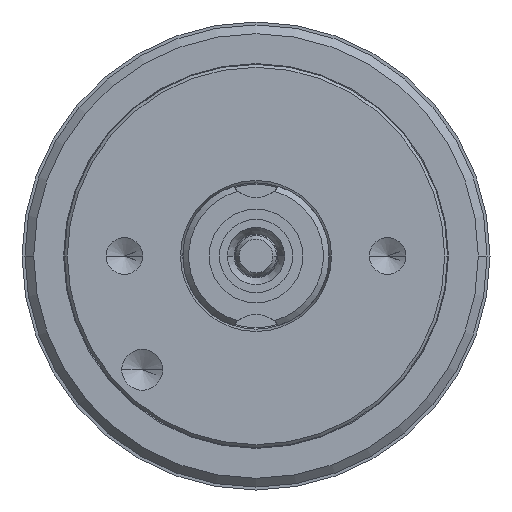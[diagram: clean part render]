
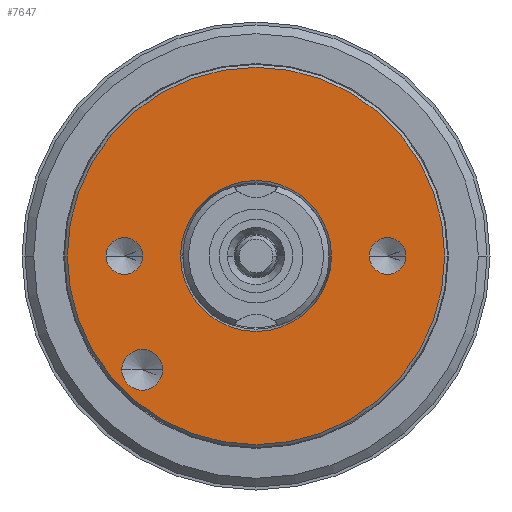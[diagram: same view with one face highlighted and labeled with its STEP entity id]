
A CAD part, left-side view. The second image highlights one B-rep face of the part: STEP entity #7647.
In plain terms, the highlighted planar face has unit normal (-1, 0, 0).
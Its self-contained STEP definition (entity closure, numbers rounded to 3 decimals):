
#2438=CARTESIAN_POINT('',(0.,0.,0.));
#2439=DIRECTION('',(-1.,0.,0.));
#2440=DIRECTION('',(0.,-1.,0.));
#2441=AXIS2_PLACEMENT_3D('',#2438,#2439,#2440);
#2446=CARTESIAN_POINT('',(0.,0.,0.));
#2447=DIRECTION('',(-1.,0.,0.));
#2448=DIRECTION('',(0.,1.,0.));
#2449=AXIS2_PLACEMENT_3D('',#2446,#2447,#2448);
#2454=CARTESIAN_POINT('',(0.,0.,0.));
#2455=DIRECTION('',(-1.,0.,0.));
#2456=DIRECTION('',(0.,-1.,0.));
#2457=AXIS2_PLACEMENT_3D('',#2454,#2455,#2456);
#2462=CARTESIAN_POINT('',(0.,0.,0.));
#2463=DIRECTION('',(-1.,0.,0.));
#2464=DIRECTION('',(0.,1.,0.));
#2465=AXIS2_PLACEMENT_3D('',#2462,#2463,#2464);
#2470=CARTESIAN_POINT('',(0.,3.889,-3.889));
#2471=DIRECTION('',(-1.,0.,0.));
#2472=DIRECTION('',(0.,1.,0.));
#2473=AXIS2_PLACEMENT_3D('',#2470,#2471,#2472);
#2478=CARTESIAN_POINT('',(0.,3.889,-3.889));
#2479=DIRECTION('',(-1.,0.,0.));
#2480=DIRECTION('',(0.,-1.,0.));
#2481=AXIS2_PLACEMENT_3D('',#2478,#2479,#2480);
#2486=CARTESIAN_POINT('',(0.,4.5,0.));
#2487=DIRECTION('',(-1.,0.,0.));
#2488=DIRECTION('',(0.,1.,0.));
#2489=AXIS2_PLACEMENT_3D('',#2486,#2487,#2488);
#2494=CARTESIAN_POINT('',(0.,4.5,0.));
#2495=DIRECTION('',(-1.,0.,0.));
#2496=DIRECTION('',(0.,-1.,0.));
#2497=AXIS2_PLACEMENT_3D('',#2494,#2495,#2496);
#2502=CARTESIAN_POINT('',(0.,-4.5,0.));
#2503=DIRECTION('',(-1.,0.,0.));
#2504=DIRECTION('',(0.,-1.,0.));
#2505=AXIS2_PLACEMENT_3D('',#2502,#2503,#2504);
#2510=CARTESIAN_POINT('',(0.,-4.5,0.));
#2511=DIRECTION('',(-1.,0.,0.));
#2512=DIRECTION('',(0.,1.,0.));
#2513=AXIS2_PLACEMENT_3D('',#2510,#2511,#2512);
#5016=CARTESIAN_POINT('',(0.,-6.45,0.));
#5017=CARTESIAN_POINT('',(0.,6.45,0.));
#5018=VERTEX_POINT('',#5016);
#5019=VERTEX_POINT('',#5017);
#5024=CARTESIAN_POINT('',(0.,-2.58,0.));
#5025=CARTESIAN_POINT('',(0.,2.58,0.));
#5026=VERTEX_POINT('',#5024);
#5027=VERTEX_POINT('',#5025);
#5034=CARTESIAN_POINT('',(0.,4.589,-3.889));
#5035=CARTESIAN_POINT('',(0.,3.189,-3.889));
#5036=VERTEX_POINT('',#5034);
#5037=VERTEX_POINT('',#5035);
#5044=CARTESIAN_POINT('',(0.,5.125,0.));
#5045=CARTESIAN_POINT('',(0.,3.875,0.));
#5046=VERTEX_POINT('',#5044);
#5047=VERTEX_POINT('',#5045);
#5054=CARTESIAN_POINT('',(0.,-5.125,0.));
#5055=CARTESIAN_POINT('',(0.,-3.875,0.));
#5056=VERTEX_POINT('',#5054);
#5057=VERTEX_POINT('',#5055);
#7613=CARTESIAN_POINT('',(0.,0.,0.));
#7614=DIRECTION('',(1.,0.,0.));
#7615=DIRECTION('',(0.,-1.,0.));
#7616=AXIS2_PLACEMENT_3D('',#7613,#7614,#7615);
#7617=PLANE('',#7616);
#7619=ORIENTED_EDGE('',*,*,#7618,.F.);
#7620=ORIENTED_EDGE('',*,*,#7603,.F.);
#7621=EDGE_LOOP('',(#7619,#7620));
#7622=FACE_OUTER_BOUND('',#7621,.F.);
#7624=ORIENTED_EDGE('',*,*,#7623,.T.);
#7626=ORIENTED_EDGE('',*,*,#7625,.T.);
#7627=EDGE_LOOP('',(#7624,#7626));
#7628=FACE_BOUND('',#7627,.F.);
#7630=ORIENTED_EDGE('',*,*,#7629,.T.);
#7632=ORIENTED_EDGE('',*,*,#7631,.T.);
#7633=EDGE_LOOP('',(#7630,#7632));
#7634=FACE_BOUND('',#7633,.F.);
#7636=ORIENTED_EDGE('',*,*,#7635,.T.);
#7638=ORIENTED_EDGE('',*,*,#7637,.T.);
#7639=EDGE_LOOP('',(#7636,#7638));
#7640=FACE_BOUND('',#7639,.F.);
#7642=ORIENTED_EDGE('',*,*,#7641,.T.);
#7644=ORIENTED_EDGE('',*,*,#7643,.T.);
#7645=EDGE_LOOP('',(#7642,#7644));
#7646=FACE_BOUND('',#7645,.F.);
#7647=ADVANCED_FACE('',(#7622,#7628,#7634,#7640,#7646),#7617,.F.);
#2442=CIRCLE('',#2441,6.45);
#2450=CIRCLE('',#2449,6.45);
#2458=CIRCLE('',#2457,2.58);
#2466=CIRCLE('',#2465,2.58);
#2474=CIRCLE('',#2473,0.7);
#2482=CIRCLE('',#2481,0.7);
#2490=CIRCLE('',#2489,0.625);
#2498=CIRCLE('',#2497,0.625);
#2506=CIRCLE('',#2505,0.625);
#2514=CIRCLE('',#2513,0.625);
#7603=EDGE_CURVE('',#5019,#5018,#2450,.T.);
#7618=EDGE_CURVE('',#5018,#5019,#2442,.T.);
#7623=EDGE_CURVE('',#5026,#5027,#2458,.T.);
#7625=EDGE_CURVE('',#5027,#5026,#2466,.T.);
#7629=EDGE_CURVE('',#5036,#5037,#2474,.T.);
#7631=EDGE_CURVE('',#5037,#5036,#2482,.T.);
#7635=EDGE_CURVE('',#5046,#5047,#2490,.T.);
#7637=EDGE_CURVE('',#5047,#5046,#2498,.T.);
#7641=EDGE_CURVE('',#5056,#5057,#2506,.T.);
#7643=EDGE_CURVE('',#5057,#5056,#2514,.T.);
